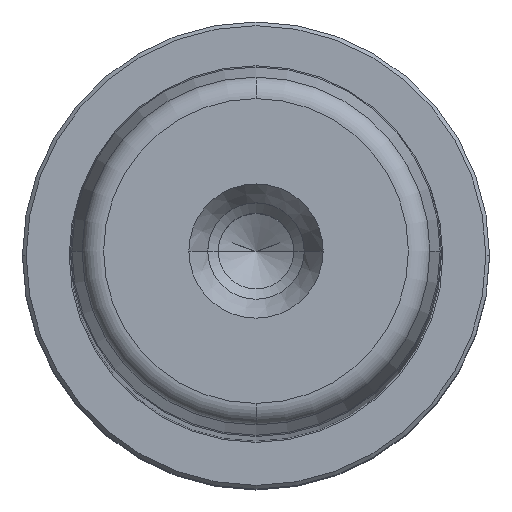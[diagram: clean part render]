
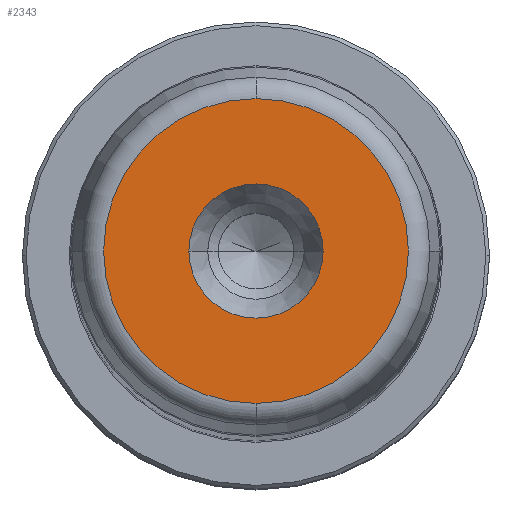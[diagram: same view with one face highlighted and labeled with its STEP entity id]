
A CAD part, top view. The second image highlights one B-rep face of the part: STEP entity #2343.
In plain terms, the highlighted planar face has unit normal (0, 0, 1).
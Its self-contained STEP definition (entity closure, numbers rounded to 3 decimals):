
#431=CARTESIAN_POINT('',(9.05,0.,355.0));
#432=VERTEX_POINT('',#431);
#439=CARTESIAN_POINT('',(-9.05,0.,355.0));
#440=VERTEX_POINT('',#439);
#441=CARTESIAN_POINT('',(0.0,0.,355.0));
#442=DIRECTION('',(0.0,0.0,1.0));
#443=DIRECTION('',(1.0,0.0,0.0));
#444=AXIS2_PLACEMENT_3D('',#441,#442,#443);
#445=CIRCLE('',#444,9.05);
#446=EDGE_CURVE('',#432,#440,#445,.T.);
#463=CARTESIAN_POINT('',(0.0,-20.554,355.0));
#464=VERTEX_POINT('',#463);
#474=CARTESIAN_POINT('',(0.,20.554,355.));
#475=VERTEX_POINT('',#474);
#476=CARTESIAN_POINT('',(0.0,0.,355.0));
#477=DIRECTION('',(0.0,0.0,1.0));
#478=DIRECTION('',(1.0,0.0,0.0));
#479=AXIS2_PLACEMENT_3D('',#476,#477,#478);
#480=CIRCLE('',#479,20.554);
#481=EDGE_CURVE('',#475,#464,#480,.T.);
#2304=CARTESIAN_POINT('',(20.554,0.,355.));
#2305=VERTEX_POINT('',#2304);
#2306=CARTESIAN_POINT('',(0.0,0.,355.0));
#2307=DIRECTION('',(0.0,0.0,1.0));
#2308=DIRECTION('',(1.0,0.0,0.0));
#2309=AXIS2_PLACEMENT_3D('',#2306,#2307,#2308);
#2310=CIRCLE('',#2309,20.554);
#2311=EDGE_CURVE('',#2305,#475,#2310,.T.);
#2313=CARTESIAN_POINT('',(0.0,0.,355.0));
#2314=DIRECTION('',(0.0,0.0,1.0));
#2315=DIRECTION('',(1.0,0.0,0.0));
#2316=AXIS2_PLACEMENT_3D('',#2313,#2314,#2315);
#2317=CIRCLE('',#2316,20.554);
#2318=EDGE_CURVE('',#464,#2305,#2317,.T.);
#2323=CARTESIAN_POINT('',(14.802,0.,355.0));
#2324=DIRECTION('',(0.0,0.0,1.0));
#2325=DIRECTION('',(0.0,-1.0,0.0));
#2326=AXIS2_PLACEMENT_3D('',#2323,#2324,#2325);
#2327=PLANE('',#2326);
#2328=ORIENTED_EDGE('',*,*,#2311,.T.);
#2329=ORIENTED_EDGE('',*,*,#481,.T.);
#2330=ORIENTED_EDGE('',*,*,#2318,.T.);
#2331=EDGE_LOOP('',(#2328,#2329,#2330));
#2332=FACE_OUTER_BOUND('',#2331,.T.);
#2333=ORIENTED_EDGE('',*,*,#446,.F.);
#2334=CARTESIAN_POINT('',(0.0,0.,355.0));
#2335=DIRECTION('',(0.0,0.0,1.0));
#2336=DIRECTION('',(1.0,0.0,0.0));
#2337=AXIS2_PLACEMENT_3D('',#2334,#2335,#2336);
#2338=CIRCLE('',#2337,9.05);
#2339=EDGE_CURVE('',#440,#432,#2338,.T.);
#2340=ORIENTED_EDGE('',*,*,#2339,.F.);
#2341=EDGE_LOOP('',(#2333,#2340));
#2342=FACE_BOUND('',#2341,.T.);
#2343=ADVANCED_FACE('',(#2332,#2342),#2327,.T.);
